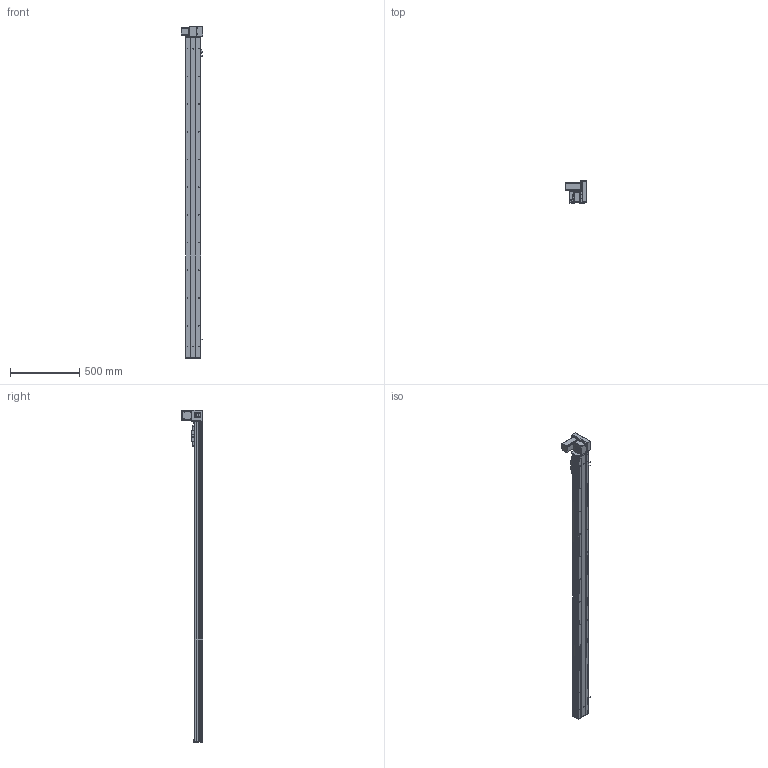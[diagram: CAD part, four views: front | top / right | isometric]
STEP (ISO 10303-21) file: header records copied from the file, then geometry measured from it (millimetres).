
FILE_DESCRIPTION (( 'STEP AP203' ), '1' );
FILE_NAME ('Y10CB-D90-S2050-UR-P400W.STEP', '2020-02-16T04:03:38', ( '微软用户' ), ( '微软中国' ), 'SwSTEP 2.0', 'SolidWorks 2017', '' );
FILE_SCHEMA (( 'CONFIG_CONTROL_DESIGN' ));
Length unit declared in the file: millimetre
Products named in the file (18): Y10B-耜蚾蟀諉啣----; 10CB-詩湍-; 00B-俋欶BM--; Y10CB- 掛极耜裔啣-毀---; 0CB-雄赽釱---; Y10C---詩湍揤啣; 0Cb-俋欶---; 10CB9-掛极; Y10B-々湍喘謫眊楊擘啣--; 10CB-耜裔; 0B-萇儂楊擘啣; Y135C-陔俋离換覜結え-; san松下电机400不带刹车----; Y100-135俋离換覜ん--; 0B-源倛裔啣; Y10CB-D90-S2050-UR-P400W; Y10B--々湍喘謫眊--666; 0B-埴倛裔啣
Assembly tree (21 placements, depth 2):
  Y10CB-D90-S2050-UR-P400W
    0CB-雄赽釱---
    0Cb-俋欶---
    Y10B-々湍喘謫眊楊擘啣--
    0B-萇儂楊擘啣
    san松下电机400不带刹车----
    0B-源倛裔啣
    0B-埴倛裔啣
    10CB-詩湍-
    Y10CB- 掛极耜裔啣-毀---  x2
    Y10C---詩湍揤啣  x2
    10CB9-掛极
    10CB-耜裔
    Y135C-陔俋离換覜結え-
    Y100-135俋离換覜ん--  x3
    Y10B--々湍喘謫眊--666
    Y10B-耜蚾蟀諉啣----
    00B-俋欶BM--
Bounding box: 157 x 155.5 x 2396 mm (x, y, z)
Volume: 4968194.1 mm3; surface area: 2335903.3 mm2
Topology: 21 solids, 21 shells, 1050 faces, 2843 edges, 1850 vertices
Faces by surface type: cylinder 539, plane 487, cone 24
Entity records: 33412 total; most frequent: CARTESIAN_POINT 6209, DIRECTION 5338, ORIENTED_EDGE 5156, EDGE_CURVE 2578, AXIS2_PLACEMENT_3D 1909, VERTEX_POINT 1676, VECTOR 1520, LINE 1520
